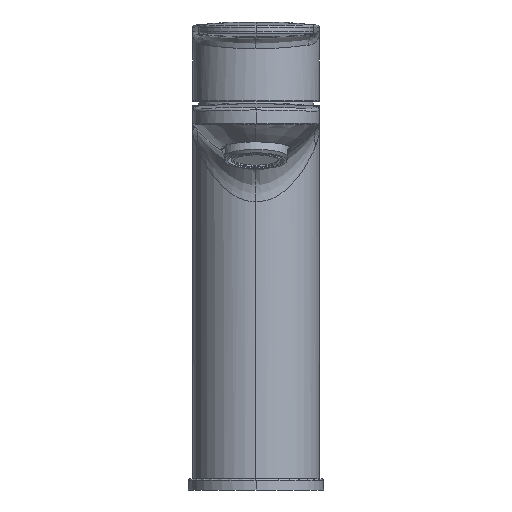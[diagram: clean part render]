
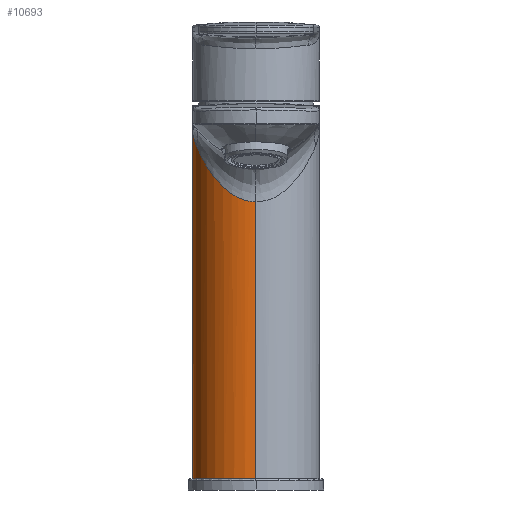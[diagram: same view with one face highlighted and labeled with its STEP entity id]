
A CAD part, left-side view. The second image highlights one B-rep face of the part: STEP entity #10693.
In plain terms, the highlighted cylindrical face has radius 22.5 mm (diameter 45 mm), a partial arc.
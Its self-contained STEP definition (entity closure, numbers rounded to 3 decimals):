
#1933=DIRECTION('',(0.,0.,1.));
#1934=VECTOR('',#1933,5.272);
#1935=CARTESIAN_POINT('',(0.,22.5,113.776));
#1936=LINE('',#1935,#1934);
#2113=CARTESIAN_POINT('',(0.,22.5,
113.5));
#2114=CARTESIAN_POINT('',(0.003,22.5,113.529));
#2115=CARTESIAN_POINT('',(-0.001,22.5,
113.588));
#2116=CARTESIAN_POINT('',(0.,22.5,
113.68));
#2117=CARTESIAN_POINT('',(0.001,22.5,113.744));
#2118=CARTESIAN_POINT('',(0.,22.5,113.776));
#2170=CARTESIAN_POINT('',(-7.367,21.26,105.901));
#2171=CARTESIAN_POINT('',(-6.888,21.426,106.324));
#2172=CARTESIAN_POINT('',(-5.917,21.725,107.165));
#2173=CARTESIAN_POINT('',(-4.477,22.067,108.307));
#2174=CARTESIAN_POINT('',(-3.44,22.242,109.184));
#2175=CARTESIAN_POINT('',(-2.911,22.311,109.635));
#2177=CARTESIAN_POINT('',(-2.911,22.311,109.635));
#2178=CARTESIAN_POINT('',(-2.594,22.352,109.915));
#2179=CARTESIAN_POINT('',(-2.032,22.412,110.424));
#2180=CARTESIAN_POINT('',(-1.438,22.456,111.023));
#2181=CARTESIAN_POINT('',(-1.009,22.478,111.495));
#2182=CARTESIAN_POINT('',(-0.684,22.49,
111.916));
#2183=CARTESIAN_POINT('',(-0.495,22.495,
112.169));
#2184=CARTESIAN_POINT('',(-0.26,22.499,
112.56));
#2185=CARTESIAN_POINT('',(-0.013,22.5,
113.161));
#2186=CARTESIAN_POINT('',(0.011,22.5,113.397));
#2187=CARTESIAN_POINT('',(0.,22.5,
113.5));
#2189=CARTESIAN_POINT('',(-2.817,22.323,120.04));
#2190=CARTESIAN_POINT('',(-2.596,22.351,119.972));
#2191=CARTESIAN_POINT('',(-2.159,22.399,119.836));
#2192=CARTESIAN_POINT('',(-1.614,22.444,119.658));
#2193=CARTESIAN_POINT('',(-1.185,22.47,119.514));
#2194=CARTESIAN_POINT('',(-0.926,22.481,
119.425));
#2195=CARTESIAN_POINT('',(-0.731,22.488,
119.356));
#2196=CARTESIAN_POINT('',(-0.592,22.492,
119.306));
#2197=CARTESIAN_POINT('',(-0.444,22.496,
119.254));
#2198=CARTESIAN_POINT('',(-0.278,22.499,
119.212));
#2199=CARTESIAN_POINT('',(-0.123,22.5,
119.151));
#2200=CARTESIAN_POINT('',(-0.04,22.5,
119.083));
#2201=CARTESIAN_POINT('',(0.,22.5,119.048));
#2203=CARTESIAN_POINT('',(-7.367,21.26,105.901));
#2204=CARTESIAN_POINT('',(-7.5,21.213,105.776));
#2205=CARTESIAN_POINT('',(-7.767,21.119,105.525));
#2206=CARTESIAN_POINT('',(-8.297,20.917,105.019));
#2207=CARTESIAN_POINT('',(-9.209,20.543,104.132));
#2208=CARTESIAN_POINT('',(-10.471,19.938,102.849));
#2209=CARTESIAN_POINT('',(-11.911,19.112,101.264));
#2210=CARTESIAN_POINT('',(-13.263,18.2,99.596));
#2211=CARTESIAN_POINT('',(-14.543,17.194,97.912));
#2212=CARTESIAN_POINT('',(-15.756,16.091,96.246));
#2213=CARTESIAN_POINT('',(-16.898,14.888,94.62));
#2214=CARTESIAN_POINT('',(-17.96,13.588,93.069));
#2215=CARTESIAN_POINT('',(-18.772,12.427,91.848));
#2216=CARTESIAN_POINT('',(-19.378,11.446,90.914));
#2217=CARTESIAN_POINT('',(-19.938,10.454,90.032));
#2218=CARTESIAN_POINT('',(-20.581,9.151,88.997));
#2219=CARTESIAN_POINT('',(-21.253,7.462,87.909));
#2220=CARTESIAN_POINT('',(-21.798,5.679,87.033));
#2221=CARTESIAN_POINT('',(-22.2,3.824,86.397));
#2222=CARTESIAN_POINT('',(-22.446,1.921,86.015));
#2223=CARTESIAN_POINT('',(-22.499,0.64,
85.932));
#2224=CARTESIAN_POINT('',(-22.5,0.,85.931));
#2226=DIRECTION('',(0.,0.,-1.));
#2227=VECTOR('',#2226,132.54);
#2228=CARTESIAN_POINT('',(22.5,0.,120.04));
#2229=LINE('',#2228,#2227);
#2230=DIRECTION('',(0.,0.,1.));
#2231=VECTOR('',#2230,98.431);
#2232=CARTESIAN_POINT('',(-22.5,0.,-12.5));
#2233=LINE('',#2232,#2231);
#2360=CARTESIAN_POINT('',(0.,0.,-12.5));
#2361=DIRECTION('',(0.,0.,1.));
#2362=DIRECTION('',(1.,0.,0.));
#2363=AXIS2_PLACEMENT_3D('',#2360,#2361,#2362);
#2724=CARTESIAN_POINT('',(-2.817,22.323,120.04));
#2814=CARTESIAN_POINT('',(0.,0.,120.04));
#2815=DIRECTION('',(0.,0.,-1.));
#2816=DIRECTION('',(-0.125,0.992,0.));
#2817=AXIS2_PLACEMENT_3D('',#2814,#2815,#2816);
#4621=VERTEX_POINT('',#2724);
#4622=CARTESIAN_POINT('',(22.5,0.,120.04));
#4623=VERTEX_POINT('',#4622);
#4640=VERTEX_POINT('',#2201);
#4643=CARTESIAN_POINT('',(-22.5,0.,-12.5));
#4644=CARTESIAN_POINT('',(-22.5,0.,85.931));
#4645=VERTEX_POINT('',#4643);
#4646=VERTEX_POINT('',#4644);
#4647=CARTESIAN_POINT('',(22.5,0.,-12.5));
#4648=VERTEX_POINT('',#4647);
#4649=CARTESIAN_POINT('',(0.,22.5,113.776));
#4650=VERTEX_POINT('',#4649);
#4651=VERTEX_POINT('',#2113);
#4652=VERTEX_POINT('',#2177);
#4653=VERTEX_POINT('',#2170);
#10670=CARTESIAN_POINT('',(0.,0.,0.));
#10671=DIRECTION('',(0.,0.,-1.));
#10672=DIRECTION('',(-1.,0.,0.));
#10673=AXIS2_PLACEMENT_3D('',#10670,#10671,#10672);
#10674=CYLINDRICAL_SURFACE('',#10673,22.5);
#10676=ORIENTED_EDGE('',*,*,#10675,.F.);
#10678=ORIENTED_EDGE('',*,*,#10677,.F.);
#10680=ORIENTED_EDGE('',*,*,#10679,.F.);
#10682=ORIENTED_EDGE('',*,*,#10681,.F.);
#10684=ORIENTED_EDGE('',*,*,#10683,.T.);
#10685=ORIENTED_EDGE('',*,*,#9725,.F.);
#10686=ORIENTED_EDGE('',*,*,#10653,.F.);
#10687=ORIENTED_EDGE('',*,*,#10665,.F.);
#10688=ORIENTED_EDGE('',*,*,#10663,.F.);
#10690=ORIENTED_EDGE('',*,*,#10689,.T.);
#10691=EDGE_LOOP('',(#10676,#10678,#10680,#10682,#10684,#10685,#10686,#10687,
#10688,#10690));
#10692=FACE_OUTER_BOUND('',#10691,.F.);
#10693=ADVANCED_FACE('',(#10692),#10674,.T.);
#2119=B_SPLINE_CURVE_WITH_KNOTS('',3,(#2113,#2114,#2115,#2116,#2117,#2118),
.UNSPECIFIED.,.F.,.F.,(4,1,1,4),(0.,0.333,0.667,1.),
.UNSPECIFIED.);
#2176=B_SPLINE_CURVE_WITH_KNOTS('',3,(#2170,#2171,#2172,#2173,#2174,#2175),
.UNSPECIFIED.,.F.,.F.,(4,1,1,4),(0.,0.333,0.667,1.),
.UNSPECIFIED.);
#2188=B_SPLINE_CURVE_WITH_KNOTS('',3,(#2177,#2178,#2179,#2180,#2181,#2182,#2183,
#2184,#2185,#2186,#2187),.UNSPECIFIED.,.F.,.F.,(4,1,1,1,1,1,1,1,4),(0.,
0.125,0.25,0.375,0.5,0.625,0.75,0.875,1.),.UNSPECIFIED.);
#2202=B_SPLINE_CURVE_WITH_KNOTS('',3,(#2189,#2190,#2191,#2192,#2193,#2194,#2195,
#2196,#2197,#2198,#2199,#2200,#2201),.UNSPECIFIED.,.F.,.F.,(4,1,1,1,1,1,1,1,1,1,
4),(0.,0.234,0.462,0.576,
0.689,0.736,0.783,0.838,
0.892,0.946,1.),.UNSPECIFIED.);
#2225=B_SPLINE_CURVE_WITH_KNOTS('',3,(#2203,#2204,#2205,#2206,#2207,#2208,#2209,
#2210,#2211,#2212,#2213,#2214,#2215,#2216,#2217,#2218,#2219,#2220,#2221,#2222,
#2223,#2224),.UNSPECIFIED.,.F.,.F.,(4,1,1,1,1,1,1,1,1,1,1,1,1,1,1,1,1,1,1,4),(
0.,0.019,0.037,0.075,0.148,
0.221,0.292,0.362,0.43,
0.497,0.562,0.626,0.658,
0.688,0.746,0.8,0.852,
0.902,0.951,1.),.UNSPECIFIED.);
#2364=CIRCLE('',#2363,22.5);
#2818=CIRCLE('',#2817,22.5);
#9725=EDGE_CURVE('',#4650,#4640,#1936,.T.);
#10653=EDGE_CURVE('',#4651,#4650,#2119,.T.);
#10663=EDGE_CURVE('',#4653,#4652,#2176,.T.);
#10665=EDGE_CURVE('',#4652,#4651,#2188,.T.);
#10675=EDGE_CURVE('',#4645,#4646,#2233,.T.);
#10677=EDGE_CURVE('',#4648,#4645,#2364,.T.);
#10679=EDGE_CURVE('',#4623,#4648,#2229,.T.);
#10681=EDGE_CURVE('',#4621,#4623,#2818,.T.);
#10683=EDGE_CURVE('',#4621,#4640,#2202,.T.);
#10689=EDGE_CURVE('',#4653,#4646,#2225,.T.);
